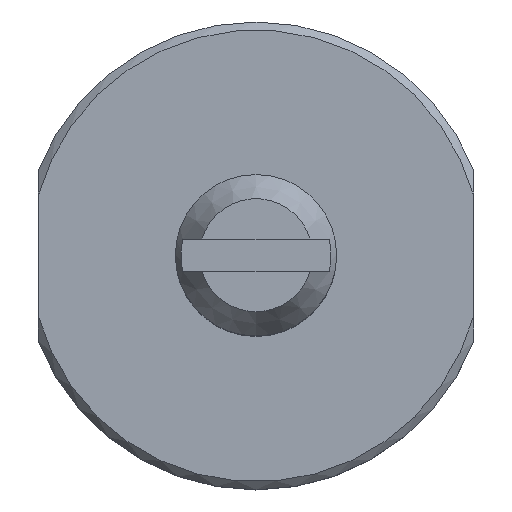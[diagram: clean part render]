
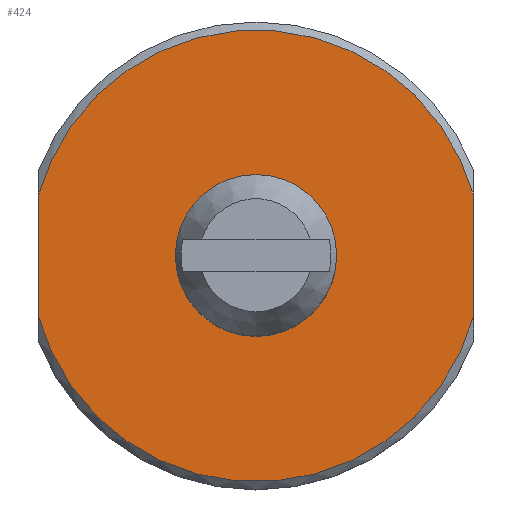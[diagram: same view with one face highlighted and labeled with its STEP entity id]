
A CAD part, top view. The second image highlights one B-rep face of the part: STEP entity #424.
In plain terms, the highlighted planar face has unit normal (0, 0, 1).
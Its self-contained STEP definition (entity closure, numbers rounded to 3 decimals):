
#36=FACE_BOUND('',#121,.T.);
#55=CIRCLE('',#460,14.);
#56=CIRCLE('',#461,14.);
#57=CIRCLE('',#462,4.4);
#87=FACE_OUTER_BOUND('',#120,.T.);
#120=EDGE_LOOP('',(#318,#319,#320,#321));
#121=EDGE_LOOP('',(#322));
#173=LINE('',#685,#185);
#177=LINE('',#710,#189);
#185=VECTOR('',#527,7.416);
#189=VECTOR('',#533,7.416);
#207=VERTEX_POINT('',#663);
#213=VERTEX_POINT('',#681);
#215=VERTEX_POINT('',#688);
#221=VERTEX_POINT('',#706);
#222=VERTEX_POINT('',#714);
#255=EDGE_CURVE('',#207,#213,#173,.T.);
#263=EDGE_CURVE('',#215,#221,#177,.T.);
#264=EDGE_CURVE('',#213,#215,#55,.T.);
#265=EDGE_CURVE('',#221,#207,#56,.T.);
#266=EDGE_CURVE('',#222,#222,#57,.T.);
#318=ORIENTED_EDGE('',*,*,#255,.T.);
#319=ORIENTED_EDGE('',*,*,#264,.T.);
#320=ORIENTED_EDGE('',*,*,#263,.T.);
#321=ORIENTED_EDGE('',*,*,#265,.T.);
#322=ORIENTED_EDGE('',*,*,#266,.F.);
#412=PLANE('',#459);
#424=ADVANCED_FACE('',(#87,#36),#412,.T.);
#459=AXIS2_PLACEMENT_3D('',#711,#534,#535);
#460=AXIS2_PLACEMENT_3D('',#712,#536,#537);
#461=AXIS2_PLACEMENT_3D('',#713,#538,#539);
#462=AXIS2_PLACEMENT_3D('',#715,#540,#541);
#527=DIRECTION('',(0.,1.,0.));
#533=DIRECTION('',(0.,-1.,0.));
#534=DIRECTION('center_axis',(0.,0.,1.));
#535=DIRECTION('ref_axis',(1.,0.,0.));
#536=DIRECTION('center_axis',(0.,0.,1.));
#537=DIRECTION('ref_axis',(0.,-1.,0.));
#538=DIRECTION('center_axis',(0.,0.,1.));
#539=DIRECTION('ref_axis',(0.,-1.,0.));
#540=DIRECTION('center_axis',(0.,0.,1.));
#541=DIRECTION('ref_axis',(0.,-1.,0.));
#663=CARTESIAN_POINT('',(13.5,-3.708,0.));
#681=CARTESIAN_POINT('',(13.5,3.708,0.));
#685=CARTESIAN_POINT('',(13.5,-1.954,0.));
#688=CARTESIAN_POINT('',(-13.5,3.708,0.));
#706=CARTESIAN_POINT('',(-13.5,-3.708,0.));
#710=CARTESIAN_POINT('',(-13.5,-7.246,0.));
#711=CARTESIAN_POINT('Origin',(0.,-9.2,0.));
#712=CARTESIAN_POINT('Origin',(0.,0.,0.));
#713=CARTESIAN_POINT('Origin',(0.,0.,0.));
#714=CARTESIAN_POINT('',(0.,-4.4,0.));
#715=CARTESIAN_POINT('Origin',(0.,0.,0.));
